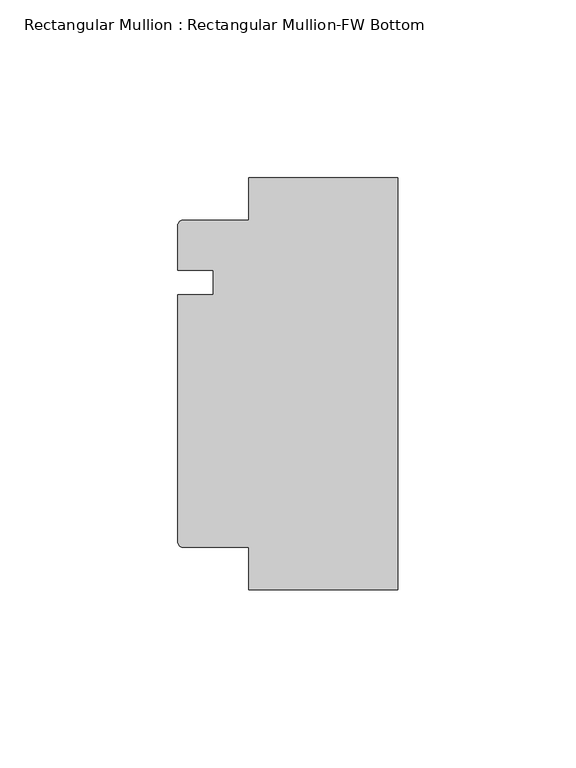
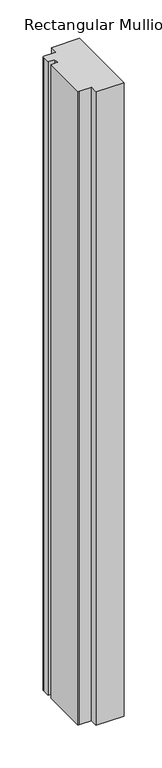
"""IFC4 building model written with IfcOpenShell, lengths in millimetres: member geometry, Rectangular Mullion : Rectangular Mullion-FW Bottom."""

from ifc_helpers import new_model, si_unit, point, frame, frame_2d, origin, place, context, project, spatial, polyline, circle_curve, trimmed, segment, composite_curve, outline, extrude, source, transform, mapped, element, save


def rectangular_mullion_rectangular_mullion_fw_bottom_02d11245(model_context):
    return source(origin(), model_context, "Body", "SweptSolid", [
        extrude(outline(composite_curve([segment(polyline([(-60.5201031, 0.0), (-42.0, 0.0), (-42.0, 12.0), (0.0, 12.0), (0.0, -104.0), (-42.0, -104.0), (-42.0, -92.0), (-60.5201031, -92.0)]), True, "CONTINUOUS"), segment(trimmed(circle_curve(frame_2d((-60.5201031, -90.5201031)), 1.4798969), [point((-60.5201031, -92.0))], [point((-62.0, -90.5201031))], False, "CARTESIAN"), True, "CONTINUOUS"), segment(polyline([(-62.0, -90.5201031), (-62.0, -21.0), (-52.0, -21.0), (-52.0, -14.0), (-62.0, -14.0), (-62.0, -1.4798969)]), True, "CONTINUOUS"), segment(trimmed(circle_curve(frame_2d((-60.5201031, -1.4798969)), 1.4798969), [point((-62.0, -1.4798969))], [point((-60.5201031, 0.0))], False, "CARTESIAN"), True, "CONTINUOUS")], self_intersect=False)), frame((0.0, 0.0, -1008.0), z_axis=(0.0, 0.0, 1.0), x_axis=(1.0, 0.0, 0.0)), (0.0, 0.0, 1.0), 1008.0),
    ])


if __name__ == "__main__":
    model = new_model("IFC4")
    model_context = context("Model", 3, world=origin())
    ifc_project = project(units=[si_unit("LENGTHUNIT", "METRE", prefix="MILLI")], contexts=[model_context])
    site = spatial("IfcSite", under=ifc_project)
    building = spatial("IfcBuilding", under=site)
    placement = place(None, origin())
    rectangular_mullion_rectangular_mullion_fw_bottom_shape = rectangular_mullion_rectangular_mullion_fw_bottom_02d11245(model_context)
    element("IfcMember", 1, ObjectType="Rectangular Mullion : Rectangular Mullion-FW Bottom", at=placement, inside=building, context=model_context, shape_type="MappedRepresentation", body=[
        mapped(rectangular_mullion_rectangular_mullion_fw_bottom_shape, transform((0.0, 0.0, 0.0), x_axis=(1.0, 0.0, 0.0), y_axis=(0.0, 1.0, 0.0), z_axis=(0.0, 0.0, 1.0))),
    ])
    save(model, "model.ifc")
